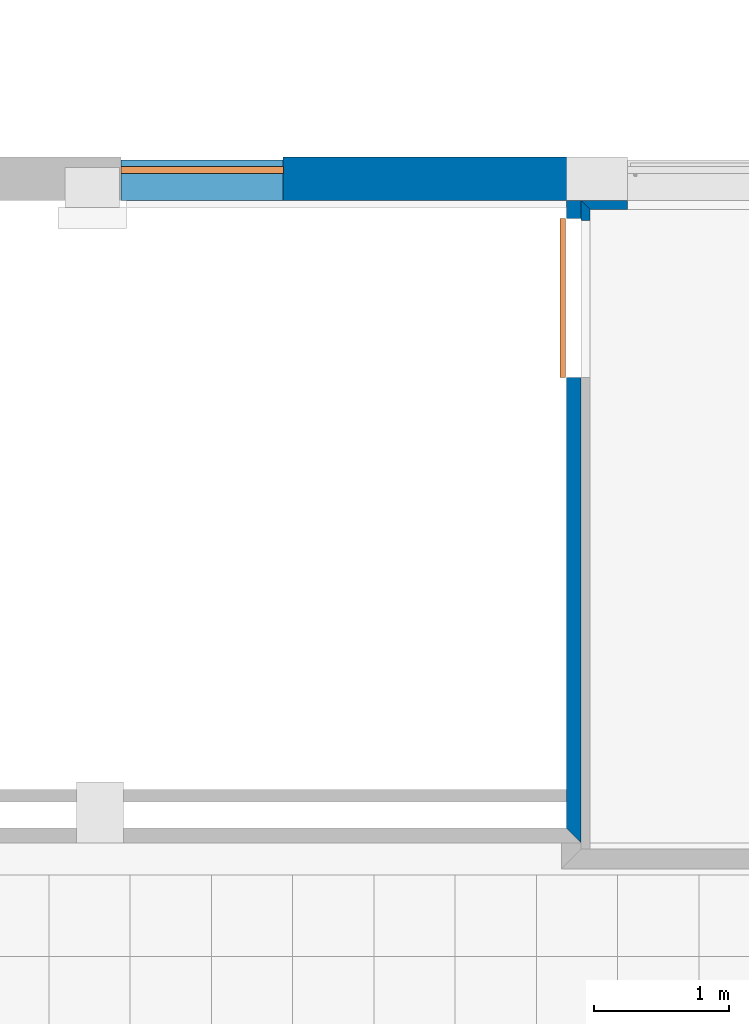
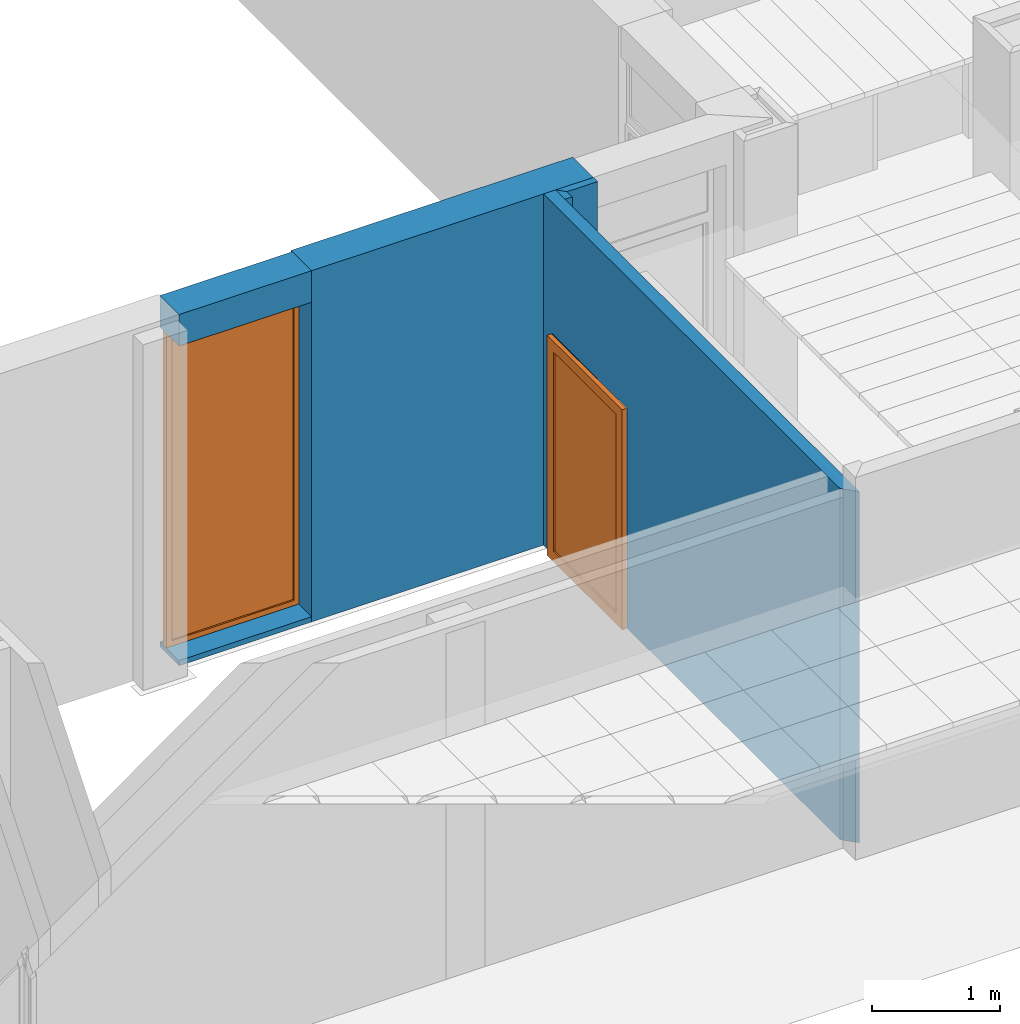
# One storey, part 31 of 60: 5 walls, 2 proxies, 2 openings.
"""IFC2X3 building model written with IfcOpenShell, lengths in millimetres."""

from ifc_helpers import new_model, entity, si_unit, converted_unit, derived_unit, money_unit, direction, frame, origin_with_axes, origin_2d_with_axis, place, context, subcontext, project, spatial, polyline, rectangle, outline, extrude, open_shell, faceted_brep, surface_model, source, transform, mapped, material, layer, layer_set, layer_usage, type_object, element, fill, save


model = new_model("IFC2X3")

# Units and contexts
model_context = context("Model", 3, precision=0.01, world=origin_with_axes(), true_north=direction((0.0, 1.0)))
body_context = subcontext(model_context, "Body", "Model", "MODEL_VIEW")
ifc_project = project(units=[si_unit("LENGTHUNIT", "METRE", prefix="MILLI"), si_unit("AREAUNIT", "SQUARE_METRE"), si_unit("VOLUMEUNIT", "CUBIC_METRE"), converted_unit("PLANEANGLEUNIT", "DEGREE", entity("IfcPlaneAngleMeasure", 0.0174532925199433), si_unit("PLANEANGLEUNIT", "RADIAN"), dimensions=[0, 0, 0, 0, 0, 0, 0]), money_unit("USD"), converted_unit("TIMEUNIT", "Year", entity("IfcTimeMeasure", 31557600.0), si_unit("TIMEUNIT", "SECOND"), dimensions=[0, 0, 1, 0, 0, 0, 0]), si_unit("MASSUNIT", "GRAM", prefix="KILO"), si_unit("THERMODYNAMICTEMPERATUREUNIT", "DEGREE_CELSIUS"), si_unit("LUMINOUSINTENSITYUNIT", "LUMEN"), si_unit("ENERGYUNIT", "JOULE", prefix="MEGA"), derived_unit("THERMALCONDUCTANCEUNIT", [(si_unit("POWERUNIT", "WATT"), 1), (si_unit("LENGTHUNIT", "METRE"), -1), (si_unit("THERMODYNAMICTEMPERATUREUNIT", "KELVIN"), -1)]), derived_unit("SPECIFICHEATCAPACITYUNIT", [(si_unit("ENERGYUNIT", "JOULE"), 1), (si_unit("MASSUNIT", "GRAM", prefix="KILO"), -1), (si_unit("THERMODYNAMICTEMPERATUREUNIT", "KELVIN"), -1)]), derived_unit("MASSDENSITYUNIT", [(si_unit("MASSUNIT", "GRAM", prefix="KILO"), 1), (si_unit("VOLUMEUNIT", "CUBIC_METRE"), -1)])], contexts=[model_context])

# Site, building, storey
site_placement = place(None, origin_with_axes())
site = spatial("IfcSite", under=ifc_project, at=site_placement, Name="Sitio", CompositionType="ELEMENT")
building_placement = place(site_placement, origin_with_axes())
building = spatial("IfcBuilding", under=site, at=building_placement, Name="Construcción", CompositionType="ELEMENT")
storey_placement = place(building_placement, frame((0.0, 0.0, 3650.0), z_axis=(0.0, 0.0, 1.0), x_axis=(1.0, 0.0, 0.0)))
storey = spatial("IfcBuildingStorey", under=building, at=storey_placement, Name="PLANTA 2ª", CompositionType="ELEMENT", Elevation=3650.0)

# Wall, opening, proxy
ifc_material_1 = material(Name="ARQ_AM246_Arrebossat_De_Guix")
ifc_layer_1 = layer(ifc_material_1, 20.0, ventilated="UNKNOWN")
ifc_material_2 = material(Name="ARQ_CE217_Gero")
ifc_layer_2 = layer(ifc_material_2, 110.0, ventilated="UNKNOWN")
ifc_material_3 = material(Name="ARQ_AI031_Aillament_Poliestireno expandido EPS")
ifc_layer_3 = layer(ifc_material_3, 100.0, ventilated="UNKNOWN")
ifc_material_4 = material(Name="ARQ_CE218_Ceramic")
ifc_layer_4 = layer(ifc_material_4, 50.0, ventilated="UNKNOWN")
ifc_layer_5 = layer(ifc_material_1, 20.0, ventilated="UNKNOWN")
ifc_layer_set_1 = layer_set([ifc_layer_1, ifc_layer_2, ifc_layer_3, ifc_layer_4, ifc_layer_5], Name="façana pati CR3 (ampit)")
ifc_layer_usage_1 = layer_usage(ifc_layer_set_1, "AXIS2", "POSITIVE", -300.0000000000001)
wall_type_1 = type_object("IfcWallType", Name="façana pati CR3 (ampit) 300", PredefinedType="NOTDEFINED")
wall_1_placement = place(storey_placement, frame((-5841.109004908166, -12338.97582371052, 0.0), z_axis=(0.0, 0.0, 1.0), x_axis=(-1.0, 0.0, 0.0)))
wall_1 = element("IfcWallStandardCase", 1, at=wall_1_placement, inside=storey, type_object=wall_type_1, material=ifc_layer_usage_1, Name="MS-201", context=body_context, shape_type="SweptSolid", body=[
    extrude(outline(polyline([(0.0, -300.0000000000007), (1194.999999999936, -300.0000000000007), (1194.999999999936, 0.0), (0.0, 0.0), (0.0, -300.0000000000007)])), origin_with_axes(), (0.0, 0.0, 1.0), 3350.0),
])
opening_1_placement = place(wall_1_placement, frame((594.9999999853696, 0.0, 49.99999999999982), z_axis=(0.0, 0.0, 1.0), x_axis=(1.0, 0.0, 0.0)))
opening_1 = element("IfcOpeningElement", 2, at=opening_1_placement, cuts=wall_1, Name="V - 008", context=body_context, shape_type="SweptSolid", body=[
    extrude(rectangle(XDim=1200.000000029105, YDim=3000.0, at=origin_2d_with_axis()), frame((0.0, -250.0, 1500.0), z_axis=(0.0, -1.0, 0.0), x_axis=(-1.0, 0.0, 0.0)), (0.0, 0.0, -1.0), 550.0),
    extrude(rectangle(XDim=1200.000000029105, YDim=3000.0, at=origin_2d_with_axis()), frame((0.0, -250.0, 1500.0), z_axis=(0.0, 1.0, 0.0), x_axis=(-1.0, 0.0, 0.0)), (0.0, 0.0, -1.0), 350.0000000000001),
])
building_element_proxy_type_1 = type_object("IfcBuildingElementProxyType", Name="Ventana Vertical Multi-Faja 27", PredefinedType="NOTDEFINED")
shared_shape_1 = source(origin_with_axes(), body_context, "Body", "SurfaceModel", [
    faceted_brep([(-550.0000000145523, -50.00000000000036, 2950.0), (-550.0000000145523, 0.0, 2950.0), (-600.0000000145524, 0.0, 2950.0), (-600.0000000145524, -50.00000000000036, 2950.0), (-550.0000000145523, -50.00000000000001, 50.0), (-550.0000000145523, 0.0, 50.00000000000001), (-600.0000000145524, 0.0, 50.00000000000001), (-600.0000000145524, -50.00000000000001, 50.0)], [[[0, 1, 2, 3]], [[4, 5, 1, 0]], [[1, 5, 6, 2]], [[3, 2, 6, 7]], [[0, 3, 7, 4]], [[7, 6, 5, 4]]]),
    faceted_brep([(550.0000000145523, -50.00000000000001, 50.0), (550.0000000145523, 0.0, 50.00000000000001), (600.0000000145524, 0.0, 50.00000000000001), (600.0000000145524, -50.00000000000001, 50.0), (550.0000000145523, -50.00000000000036, 2950.0), (550.0000000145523, 0.0, 2950.0), (600.0000000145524, 0.0, 2950.0), (600.0000000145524, -50.00000000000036, 2950.0)], [[[0, 1, 2, 3]], [[4, 5, 1, 0]], [[1, 5, 6, 2]], [[3, 2, 6, 7]], [[0, 3, 7, 4]], [[7, 6, 5, 4]]]),
    faceted_brep([(550.0000000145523, -50.00000000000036, 2950.0), (550.0000000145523, 0.0, 2950.0), (600.0000000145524, 0.0, 2950.0), (600.0000000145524, -50.00000000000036, 2950.0), (-550.0000000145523, -50.00000000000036, 2950.0), (-550.0000000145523, 0.0, 2950.0), (-600.0000000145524, 0.0, 2950.0), (-600.0000000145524, 0.0, 3000.0), (600.0000000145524, 0.0, 3000.0), (600.0000000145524, -50.00000000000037, 3000.0), (-600.0000000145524, -50.00000000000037, 3000.0), (-600.0000000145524, -50.00000000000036, 2950.0)], [[[0, 1, 2, 3]], [[4, 5, 1, 0]], [[1, 5, 6, 7, 8, 2]], [[3, 2, 8, 9]], [[0, 3, 9, 10, 11, 4]], [[11, 6, 5, 4]], [[10, 7, 6, 11]], [[9, 8, 7, 10]]]),
    faceted_brep([(-550.0000000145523, -50.00000000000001, 50.0), (-550.0000000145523, 0.0, 50.00000000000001), (-600.0000000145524, 0.0, 50.00000000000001), (-600.0000000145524, -50.00000000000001, 50.0), (550.0000000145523, -50.00000000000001, 50.0), (550.0000000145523, 0.0, 50.00000000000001), (600.0000000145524, 0.0, 50.00000000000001), (600.0000000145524, 0.0, 0.0), (-600.0000000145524, 0.0, 0.0), (-600.0000000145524, -50.0, 0.0), (600.0000000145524, -50.0, 0.0), (600.0000000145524, -50.00000000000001, 50.0)], [[[0, 1, 2, 3]], [[4, 5, 1, 0]], [[1, 5, 6, 7, 8, 2]], [[3, 2, 8, 9]], [[0, 3, 9, 10, 11, 4]], [[11, 6, 5, 4]], [[10, 7, 6, 11]], [[9, 8, 7, 10]]]),
    surface_model("IfcShellBasedSurfaceModel", [(-550.0000000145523, -35.0, 49.99999999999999), (550.0000000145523, -35.0, 49.99999999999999), (550.0000000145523, -35.00000000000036, 2950.0), (-550.0000000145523, -35.00000000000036, 2950.0)], [open_shell([[[0, 1, 2, 3]]])]),
    surface_model("IfcShellBasedSurfaceModel", [(-550.0000000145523, -15.0, 49.99999999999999), (-550.0000000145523, -15.00000000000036, 2950.0), (550.0000000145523, -15.00000000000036, 2950.0), (550.0000000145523, -15.0, 49.99999999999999)], [open_shell([[[0, 1, 2, 3]]])]),
])
proxy_1_placement = place(opening_1_placement, frame((600.0000000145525, 0.0, 0.0), z_axis=(0.0, 0.0, 1.0), x_axis=(-1.0, 0.0, 0.0)))
proxy_1 = element("IfcBuildingElementProxy", 3, at=proxy_1_placement, inside=storey, type_object=building_element_proxy_type_1, Name="V - 008", context=body_context, shape_type="MappedRepresentation", body=[
    mapped(shared_shape_1, transform((600.0000000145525, 250.0, 0.0))),
])
fill(opening_1, proxy_1)

# Walls
ifc_layer_6 = layer(ifc_material_2, 150.0, ventilated="UNKNOWN")
ifc_layer_7 = layer(ifc_material_3, 100.0, ventilated="UNKNOWN")
ifc_layer_8 = layer(ifc_material_4, 50.0, ventilated="UNKNOWN")
ifc_layer_9 = layer(ifc_material_1, 20.0, ventilated="UNKNOWN")
ifc_layer_set_2 = layer_set([ifc_layer_6, ifc_layer_7, ifc_layer_8, ifc_layer_9], Name="façana pati CR3")
ifc_layer_usage_2 = layer_usage(ifc_layer_set_2, "AXIS2", "POSITIVE", -320.0)
wall_type_2 = type_object("IfcWallType", Name="façana pati CR3 320", PredefinedType="NOTDEFINED")
wall_2_placement = place(storey_placement, frame((-3301.109004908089, -12338.97582371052, 0.0), z_axis=(0.0, 0.0, 1.0), x_axis=(-1.0, 0.0, 0.0)))
element("IfcWallStandardCase", 4, at=wall_2_placement, inside=storey, type_object=wall_type_2, material=ifc_layer_usage_2, Name="MS-201", context=body_context, shape_type="SweptSolid", body=[
    extrude(outline(polyline([(0.0, -320.0000000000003), (2540.000000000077, -320.0000000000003), (2540.000000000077, 0.0), (0.0, 0.0), (0.0, -320.0000000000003)])), origin_with_axes(), (0.0, 0.0, 1.0), 3350.0),
])
ifc_material_5 = material(Name="ARQ_FU093_Panellat_HPL")
ifc_layer_10 = layer(ifc_material_5, 6.0, ventilated="UNKNOWN")
ifc_material_6 = material(Name="ARQ_EN271_Camara_Aire")
ifc_layer_11 = layer(ifc_material_6, 6.0, ventilated="UNKNOWN")
ifc_material_7 = material(Name="Panel de Yeso Laminado")
ifc_layer_12 = layer(ifc_material_7, 13.0, ventilated="UNKNOWN")
ifc_material_8 = material(Name="ARQ_AI033_Aillament_Llana_De_Roca")
ifc_layer_13 = layer(ifc_material_8, 40.0, ventilated="UNKNOWN")
ifc_layer_set_3 = layer_set([ifc_layer_10, ifc_layer_11, ifc_layer_12, ifc_layer_13], Name="Pladur Tras 40 / 1N +HPL")
ifc_layer_usage_3 = layer_usage(ifc_layer_set_3, "AXIS2", "POSITIVE", 0.0)
wall_type_3 = type_object("IfcWallType", Name="Pladur Tras 40 / 1N +HPL 65", PredefinedType="NOTDEFINED")
wall_3_placement = place(storey_placement, frame((-3573.894203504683, -12485.39885957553, 0.0), z_axis=(0.0, 0.0, 1.0), x_axis=(0.0, 1.0, 0.0)))
element("IfcWallStandardCase", 5, at=wall_3_placement, inside=storey, type_object=wall_type_3, material=ifc_layer_usage_3, Name="MS-212", context=body_context, shape_type="SweptSolid", body=[
    extrude(outline(polyline([(0.0, 0.0), (81.42303586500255, 0.0), (146.423035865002, 64.99999999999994), (0.0, 64.99999999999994), (0.0, 0.0)])), origin_with_axes(), (0.0, 0.0, 1.0), 3350.0),
])
ifc_layer_usage_4 = layer_usage(ifc_layer_set_3, "AXIS2", "POSITIVE", 0.0)
wall_4_placement = place(storey_placement, frame((-3573.894203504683, -12403.97582371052, 0.0), z_axis=(0.0, 0.0, 1.0), x_axis=(1.0, 0.0, 0.0)))
element("IfcWallStandardCase", 6, at=wall_4_placement, inside=storey, type_object=wall_type_3, material=ifc_layer_usage_4, Name="MS-212", context=body_context, shape_type="SweptSolid", body=[
    extrude(outline(polyline([(0.0, 0.0), (276.0000054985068, 0.0), (276.0000054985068, 64.9999999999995), (-64.99999999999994, 64.9999999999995), (0.0, 0.0)])), origin_with_axes(), (0.0, 0.0, 1.0), 3350.0),
])

# Wall, opening, proxy
ifc_layer_14 = layer(ifc_material_1, 10.0, ventilated="UNKNOWN")
ifc_layer_15 = layer(ifc_material_2, 90.0, ventilated="UNKNOWN")
ifc_layer_16 = layer(ifc_material_1, 10.0, ventilated="UNKNOWN")
ifc_layer_set_4 = layer_set([ifc_layer_14, ifc_layer_15, ifc_layer_16], Name="CR Enva Totxana")
ifc_layer_usage_5 = layer_usage(ifc_layer_set_4, "AXIS2", "POSITIVE", -110.0)
wall_type_4 = type_object("IfcWallType", Name="CR Enva Totxana 110", PredefinedType="NOTDEFINED")
wall_5_placement = place(storey_placement, frame((-3748.894203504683, -17083.97582371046, 0.0), z_axis=(0.0, 0.0, 1.0), x_axis=(0.0, 1.0, 0.0)))
wall_5 = element("IfcWallStandardCase", 7, at=wall_5_placement, inside=storey, type_object=wall_type_4, material=ifc_layer_usage_5, Name="MS-201", context=body_context, shape_type="SweptSolid", body=[
    extrude(outline(polyline([(0.0, -109.9999999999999), (4744.999999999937, -109.9999999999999), (4744.999999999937, 0.0), (109.9999999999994, 0.0), (0.0, -109.9999999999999)])), origin_with_axes(), (0.0, 0.0, 1.0), 3350.0),
])
opening_2_placement = place(wall_5_placement, frame((4023.999835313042, 0.0, 0.0), z_axis=(0.0, 0.0, 1.0), x_axis=(1.0, 0.0, 0.0)))
opening_2 = element("IfcOpeningElement", 8, at=opening_2_placement, cuts=wall_5, Name="PF-13D", context=body_context, shape_type="SweptSolid", body=[
    extrude(rectangle(XDim=1174.000000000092, YDim=2100.0, at=origin_2d_with_axis()), frame((0.0, -109.9999999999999, 1049.999999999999), z_axis=(0.0, -1.0, 0.0), x_axis=(-1.0, 0.0, 0.0)), (0.0, 0.0, -1.0), 329.9999999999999),
])
building_element_proxy_type_2 = type_object("IfcBuildingElementProxyType", Name="Puerta Corredera Exterior 27", PredefinedType="NOTDEFINED")
shared_shape_2 = source(origin_with_axes(), body_context, "Body", "SurfaceModel", [
    faceted_brep([(-587.0000000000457, 44.99999999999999, 100.0), (-487.0000000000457, 44.99999999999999, 100.0), (-487.0000000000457, 4.99999999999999, 100.0), (-587.0000000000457, 4.99999999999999, 100.0), (-587.0000000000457, 44.99999999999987, 2000.0), (-487.0000000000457, 44.99999999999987, 2000.0), (-487.0000000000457, 4.999999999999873, 2000.0), (-587.0000000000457, 4.999999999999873, 2000.0)], [[[0, 1, 2, 3]], [[0, 4, 5, 1]], [[1, 5, 6, 2]], [[3, 2, 6, 7]], [[4, 0, 3, 7]], [[5, 4, 7, 6]]]),
    faceted_brep([(587.0000000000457, 44.99999999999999, 100.0), (587.0000000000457, 44.99999999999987, 2000.0), (587.0000000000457, 4.999999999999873, 2000.0), (587.0000000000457, 4.99999999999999, 100.0), (487.0000000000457, 44.99999999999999, 100.0), (487.0000000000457, 44.99999999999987, 2000.0), (487.0000000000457, 4.999999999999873, 2000.0), (487.0000000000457, 4.99999999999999, 100.0)], [[[0, 1, 2, 3]], [[0, 4, 5, 1]], [[1, 5, 6, 2]], [[3, 2, 6, 7]], [[4, 0, 3, 7]], [[5, 4, 7, 6]]]),
    faceted_brep([(-587.0000000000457, 45.0, 0.0), (587.0000000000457, 45.0, 0.0), (587.0000000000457, 4.999999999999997, 0.0), (-587.0000000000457, 4.999999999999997, 0.0), (-587.0000000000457, 44.99999999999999, 100.0), (-487.0000000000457, 44.99999999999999, 100.0), (487.0000000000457, 44.99999999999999, 100.0), (587.0000000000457, 44.99999999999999, 100.0), (587.0000000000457, 4.99999999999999, 100.0), (487.0000000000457, 4.99999999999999, 100.0), (-487.0000000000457, 4.99999999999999, 100.0), (-587.0000000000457, 4.99999999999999, 100.0)], [[[0, 1, 2, 3]], [[0, 4, 5, 6, 7, 1]], [[1, 7, 8, 2]], [[3, 2, 8, 9, 10, 11]], [[4, 0, 3, 11]], [[5, 4, 11, 10]], [[6, 5, 10, 9]], [[7, 6, 9, 8]]]),
    faceted_brep([(-587.0000000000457, 44.99999999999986, 2100.0), (-587.0000000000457, 44.99999999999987, 2000.0), (-587.0000000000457, 4.999999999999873, 2000.0), (-587.0000000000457, 4.999999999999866, 2100.0), (587.0000000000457, 44.99999999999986, 2100.0), (587.0000000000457, 44.99999999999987, 2000.0), (487.0000000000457, 44.99999999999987, 2000.0), (-487.0000000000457, 44.99999999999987, 2000.0), (-487.0000000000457, 4.999999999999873, 2000.0), (487.0000000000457, 4.999999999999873, 2000.0), (587.0000000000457, 4.999999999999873, 2000.0), (587.0000000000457, 4.999999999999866, 2100.0)], [[[0, 1, 2, 3]], [[0, 4, 5, 6, 7, 1]], [[1, 7, 8, 2]], [[3, 2, 8, 9, 10, 11]], [[4, 0, 3, 11]], [[5, 4, 11, 10]], [[6, 5, 10, 9]], [[7, 6, 9, 8]]]),
    surface_model("IfcShellBasedSurfaceModel", [(-487.0000000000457, 31.0, 100.0), (-487.0000000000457, 31.0, 2000.0), (487.0000000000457, 31.0, 2000.0), (487.0000000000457, 31.0, 100.0)], [open_shell([[[0, 1, 2, 3]]])]),
    surface_model("IfcShellBasedSurfaceModel", [(-487.0000000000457, 19.0, 100.0), (487.0000000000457, 19.0, 100.0), (487.0000000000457, 19.0, 2000.0), (-487.0000000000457, 19.0, 2000.0)], [open_shell([[[0, 1, 2, 3]]])]),
])
proxy_2_placement = place(opening_2_placement, frame((-587.0000000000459, 0.0, 0.0), z_axis=(0.0, 0.0, 1.0), x_axis=(1.0, 0.0, 0.0)))
proxy_2 = element("IfcBuildingElementProxy", 9, at=proxy_2_placement, inside=storey, type_object=building_element_proxy_type_2, Name="PF-13D", context=body_context, shape_type="MappedRepresentation", body=[
    mapped(shared_shape_2, transform((587.0000000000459, 0.0, 0.0))),
])
fill(opening_2, proxy_2)

save(model, "model.ifc")
